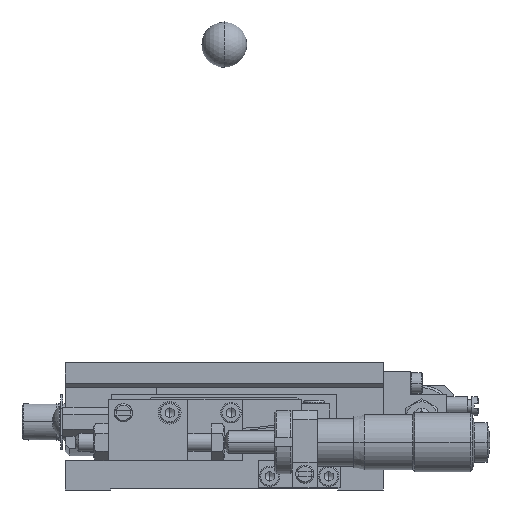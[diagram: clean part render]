
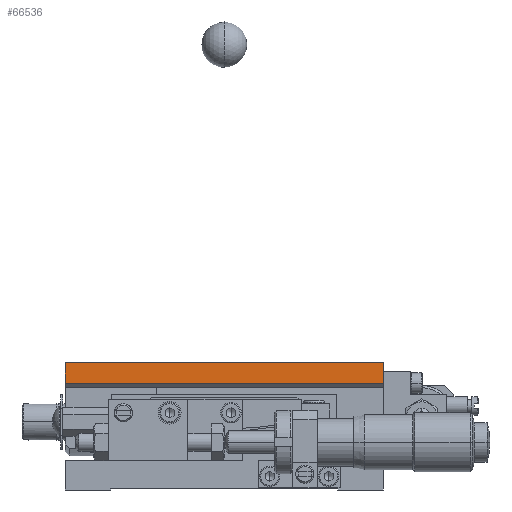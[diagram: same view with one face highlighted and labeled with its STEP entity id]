
A CAD part, left-side view. The second image highlights one B-rep face of the part: STEP entity #66536.
In plain terms, the highlighted planar face has unit normal (-1, 0, 0) as drawn and (0, -1, 0) by its records, which use the part's own axes.
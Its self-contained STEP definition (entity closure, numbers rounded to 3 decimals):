
#31665 = CARTESIAN_POINT ( 'NONE',  ( 0., 0., 15.5 ) ) ;
#31666 = DIRECTION ( 'NONE',  ( 0., 0., 1. ) ) ;
#31667 = VECTOR ( 'NONE', #31666, 1000. ) ;
#31668 = CARTESIAN_POINT ( 'NONE',  ( 0., 0., 17.25 ) ) ;
#31669 = LINE ( 'NONE', #31668, #31667 ) ;
#31670 = CARTESIAN_POINT ( 'NONE',  ( 0., 0., 20. ) ) ;
#31812 = CARTESIAN_POINT ( 'NONE',  ( 0., 0., 20. ) ) ;
#31813 = LINE ( 'NONE', #31812, #31889 ) ;
#31888 = DIRECTION ( 'NONE',  ( -1., 0., 0. ) ) ;
#31889 = VECTOR ( 'NONE', #31888, 1000. ) ;
#32009 = CARTESIAN_POINT ( 'NONE',  ( -70., 0., 20. ) ) ;
#32116 = DIRECTION ( 'NONE',  ( 0., 0., -1. ) ) ;
#32117 = VECTOR ( 'NONE', #32116, 1000. ) ;
#32118 = CARTESIAN_POINT ( 'NONE',  ( -70., 0., 17.25 ) ) ;
#32119 = LINE ( 'NONE', #32118, #32117 ) ;
#32120 = CARTESIAN_POINT ( 'NONE',  ( -70., 0., 15.5 ) ) ;
#32135 = DIRECTION ( 'NONE',  ( 1., 0., 0. ) ) ;
#32136 = VECTOR ( 'NONE', #32135, 1000. ) ;
#32137 = CARTESIAN_POINT ( 'NONE',  ( 0., 0., 15.5 ) ) ;
#32138 = LINE ( 'NONE', #32137, #32136 ) ;
#32204 = DIRECTION ( 'NONE',  ( -1., 0., 0. ) ) ;
#32205 = DIRECTION ( 'NONE',  ( 0., -1., 0. ) ) ;
#32206 = CARTESIAN_POINT ( 'NONE',  ( 0., 0., 17.25 ) ) ;
#32207 = AXIS2_PLACEMENT_3D ( 'NONE', #32206, #32205, #32204 ) ;
#32208 = PLANE ( 'NONE',  #32207 ) ;
#32213 = FACE_OUTER_BOUND ( 'NONE', #66537, .T. ) ;
#66182 = VERTEX_POINT ( 'NONE', #31670 ) ;
#66184 = EDGE_CURVE ( 'NONE', #66185, #66182, #31669, .T. ) ;
#66185 = VERTEX_POINT ( 'NONE', #31665 ) ;
#66294 = EDGE_CURVE ( 'NONE', #66182, #66372, #31813, .T. ) ;
#66372 = VERTEX_POINT ( 'NONE', #32009 ) ;
#66453 = ORIENTED_EDGE ( 'NONE', *, *, #66467, .T. ) ;
#66454 = ORIENTED_EDGE ( 'NONE', *, *, #66455, .T. ) ;
#66455 = EDGE_CURVE ( 'NONE', #66465, #66185, #32138, .T. ) ;
#66456 = ORIENTED_EDGE ( 'NONE', *, *, #66184, .T. ) ;
#66457 = ORIENTED_EDGE ( 'NONE', *, *, #66294, .T. ) ;
#66465 = VERTEX_POINT ( 'NONE', #32120 ) ;
#66467 = EDGE_CURVE ( 'NONE', #66372, #66465, #32119, .T. ) ;
#66536 = ADVANCED_FACE ( 'NONE', ( #32213 ), #32208, .T. ) ;
#66537 = EDGE_LOOP ( 'NONE', ( #66453, #66454, #66456, #66457 ) ) ;
